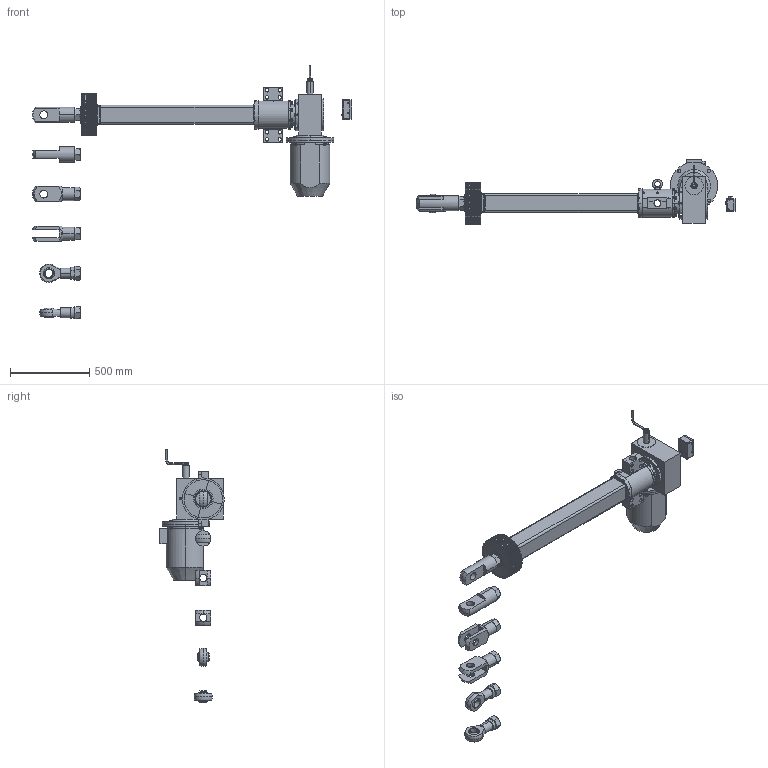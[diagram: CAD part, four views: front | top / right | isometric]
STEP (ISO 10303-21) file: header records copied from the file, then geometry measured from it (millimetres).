
FILE_DESCRIPTION (( 'STEP AP203' ), '1' );
FILE_NAME ('Ì4 10 800.STEP', '2016-12-21T09:06:05', ( '' ), ( '' ), 'SwSTEP 2.0', 'SolidWorks 2012', '' );
FILE_SCHEMA (( 'CONFIG_CONTROL_DESIGN' ));
Length unit declared in the file: millimetre
Products named in the file (9): ﾌ4 10 800; 迕10; 苂10; 迍 10; ﾁﾑﾏ; Ãîôð Ñ4_•®¤600; ﾒ矜 10_憤､ 800; ﾑ4 10 1; ﾌ4 10 矜鈞
Assembly tree (10 placements, depth 2):
  ﾌ4 10 800
    ﾌ4 10 矜鈞
    ﾑ4 10 1
    ﾒ矜 10_憤､ 800
    Ãîôð Ñ4_•®¤600
    ﾁﾑﾏ
    迍 10
    苂10  x2
    迕10  x2
Bounding box: 2016 x 405.76 x 1601 mm (x, y, z)
Volume: 2589515.7 mm3; surface area: 6518383.6 mm2
Topology: 1 solids, 211 shells, 1906 faces, 5216 edges, 3541 vertices
Faces by surface type: plane 759, cylinder 599, cone 414, torus 62, sphere 60, bspline 12
Entity records: 62601 total; most frequent: CARTESIAN_POINT 15144, DIRECTION 10383, ORIENTED_EDGE 8387, EDGE_CURVE 4956, AXIS2_PLACEMENT_3D 4163, VERTEX_POINT 3384, CIRCLE 2328, EDGE_LOOP 2180
